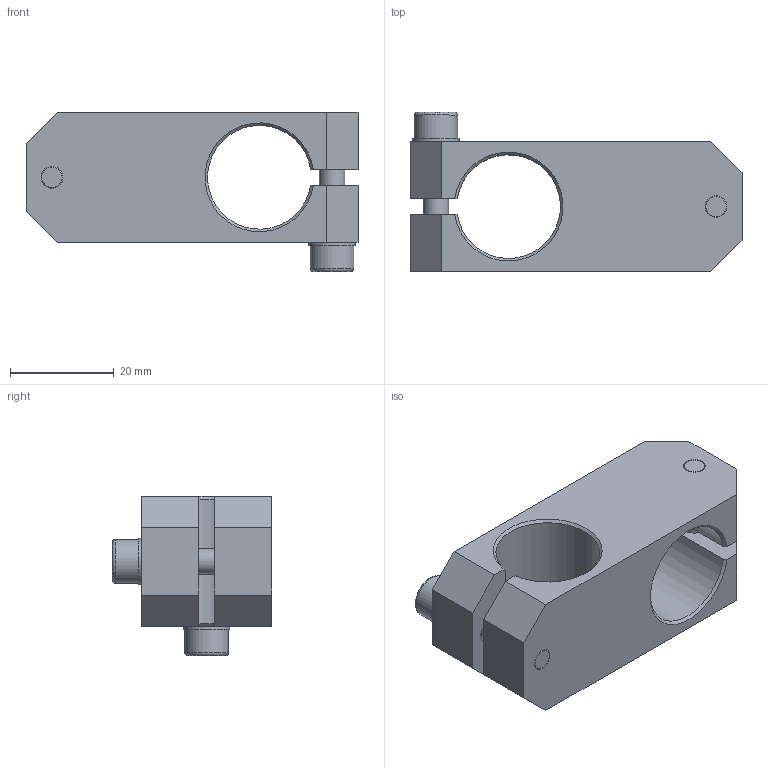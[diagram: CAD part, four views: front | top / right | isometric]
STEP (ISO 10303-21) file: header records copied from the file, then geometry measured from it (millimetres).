
FILE_DESCRIPTION (( 'STEP AP214' ), '1' );
FILE_NAME ('3353.STEP', '2024-06-14T17:57:44', ( '' ), ( '' ), 'SwSTEP 2.0', 'SolidWorks 2022', '' );
FILE_SCHEMA (( 'AUTOMOTIVE_DESIGN' ));
Length unit declared in the file: millimetre
Products named in the file (1): 3353
Bounding box: 64 x 30.66 x 30.66 mm (x, y, z)
Volume: 21997.5 mm3; surface area: 11440.6 mm2
Topology: 5 solids, 5 shells, 66 faces, 152 edges, 100 vertices
Faces by surface type: plane 44, cylinder 14, cone 6, torus 2
Full cylindrical faces by diameter (mm): 4.2 x2, 4.9 x2, 5.3 x1, 5.4 x2, 5.5 x1, 8.4 x2, 8.9 x2
Entity records: 1904 total; most frequent: CARTESIAN_POINT 327, DIRECTION 298, ORIENTED_EDGE 272, EDGE_CURVE 136, AXIS2_PLACEMENT_3D 103, VERTEX_POINT 100, EDGE_LOOP 98, LINE 92
